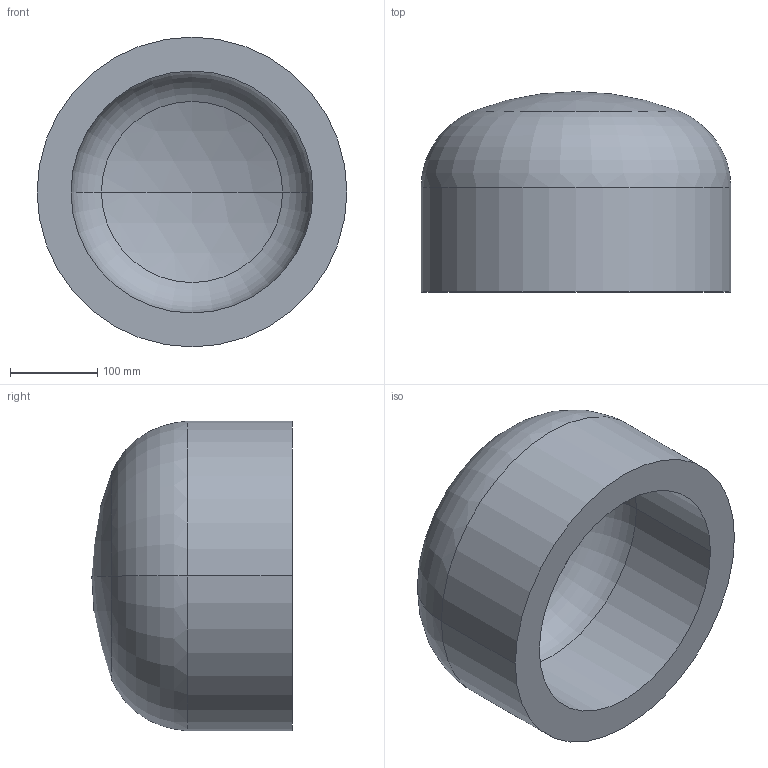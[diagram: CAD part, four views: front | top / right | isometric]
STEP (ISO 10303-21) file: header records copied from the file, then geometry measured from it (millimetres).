
FILE_DESCRIPTION (( 'STEP AP203' ), '1' );
FILE_NAME ('DIN 28013 Korbbogenform_-_Boden DIN 28013 - 355,6 x 120 - I - s=39.step', '2016-07-01T07:48:03', ( '' ), ( '' ), 'SwSTEP 2.0', 'SolidWorks 2013', '' );
FILE_SCHEMA (( 'CONFIG_CONTROL_DESIGN' ));
Length unit declared in the file: millimetre
Products named in the file (1): DIN 28013 Korbbogenform_-_Boden DIN 28013 - 355,6 x 120 - I - s=39
Bounding box: 355.6 x 229.88 x 355.6 mm (x, y, z)
Volume: 9347150 mm3; surface area: 521317.1 mm2
Topology: 1 solids, 1 shells, 13 faces, 24 edges, 14 vertices
Faces by surface type: torus 4, cylinder 4, sphere 4, plane 1
Entity records: 407 total; most frequent: DIRECTION 72, CARTESIAN_POINT 52, ORIENTED_EDGE 48, AXIS2_PLACEMENT_3D 34, EDGE_CURVE 24, CIRCLE 20, VERTEX_POINT 14, EDGE_LOOP 14
